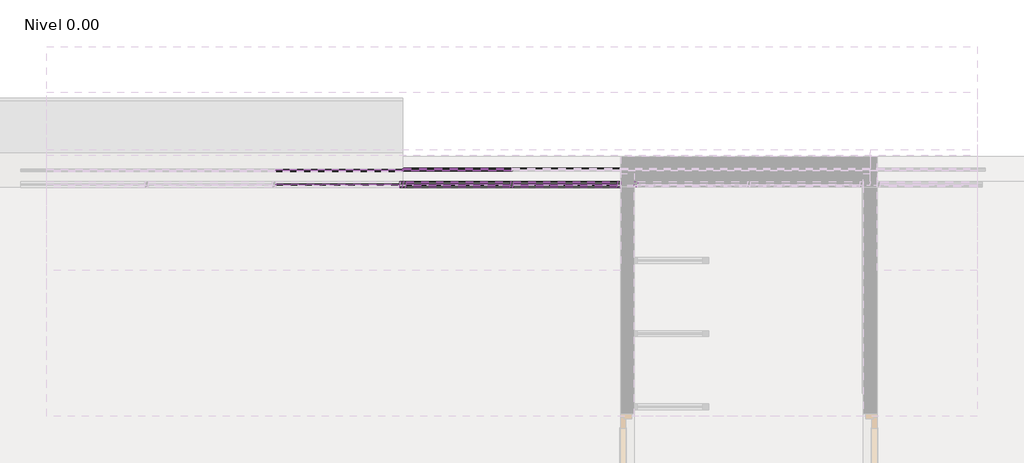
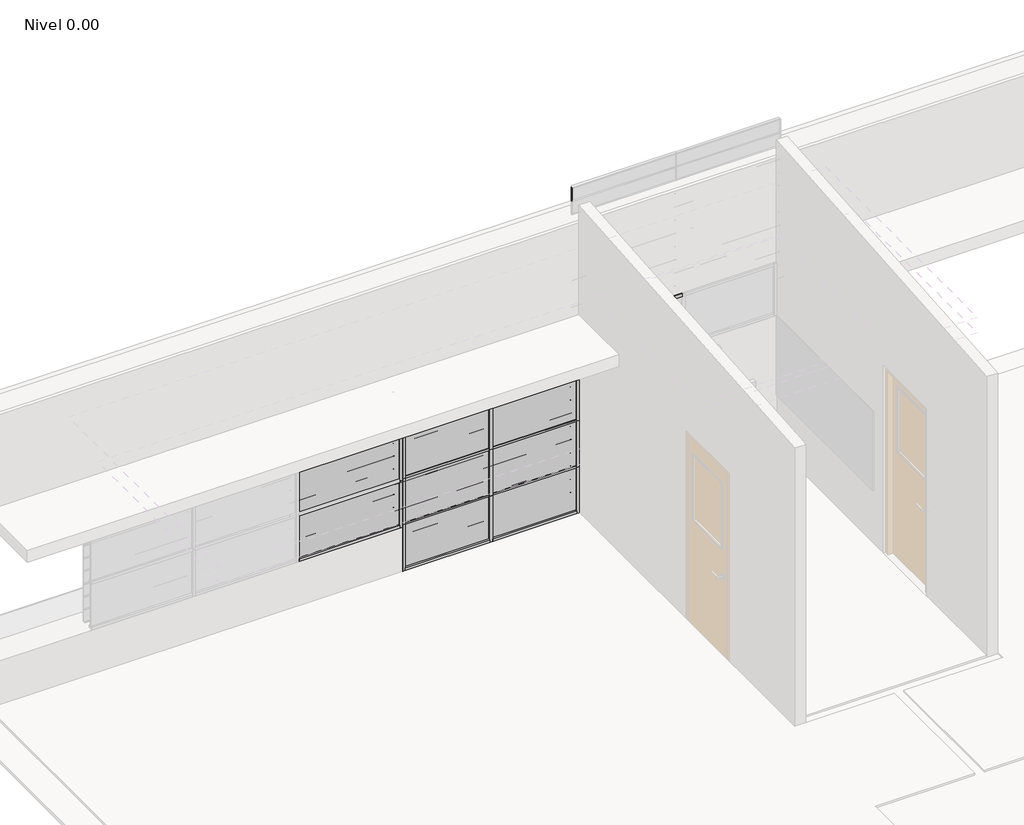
# One storey, part 14 of 27: 97 members, 36 plates.
"""IFC4 building model written with IfcOpenShell, lengths in millimetres."""

from ifc_helpers import new_model, si_unit, origin, place, context, project, spatial, transform, mapped, element, save
from components import circular_mullion_e1cfff8a, l_corner_mullion_bdbcb013, l_corner_mullion_bb2ea94d, l_corner_mullion_de296168, rectangular_mullion_fd73bc33, rectangular_mullion_62a8ddbd, rectangular_mullion_2cbd8fee, rectangular_mullion_4ef2b083, rectangular_mullion_f7ba8490, rectangular_mullion_f4ea7fa0, rectangular_mullion_c518a510, rectangular_mullion_b22e6fb3, rectangular_mullion_4732226b, rectangular_mullion_bccfeea3, rectangular_mullion_9fa35bb9, system_panel_6bc11d80, system_panel_4f7478dd, system_panel_7fb71679, system_panel_d60c91ae, system_panel_glazed_9e3282f8, system_panel_glazed_76269dd0, system_panel_glazed_86de827a, system_panel_glazed_6ff0c913

model = new_model("IFC4")

# Units and contexts
model_context = context("Model", 3, world=origin())
ifc_project = project(units=[si_unit("LENGTHUNIT", "METRE", prefix="MILLI")], contexts=[model_context])

# Site, building, storey
site = spatial("IfcSite", under=ifc_project)
building = spatial("IfcBuilding", under=site)
storey = spatial("IfcBuildingStorey", under=building, Name="Nivel 0.00", Elevation=0.0)

# Members
placement = place(None, origin())
circular_mullion_shape = circular_mullion_e1cfff8a(model_context)
element("IfcMember", 1, ObjectType="Circular Mullion : ARQ_HERR_16mm", at=placement, inside=storey, context=model_context, shape_type="MappedRepresentation", body=[
    mapped(circular_mullion_shape, transform((-10408.1946709, 6959.43912, 150.0), x_axis=(0.0, 0.0, 1.0), y_axis=(0.0, -1.0, 0.0), z_axis=(1.0, 0.0, 0.0))),
])
element("IfcMember", 2, ObjectType="Circular Mullion : ARQ_HERR_16mm", at=placement, inside=storey, context=model_context, shape_type="MappedRepresentation", body=[
    mapped(circular_mullion_shape, transform((-10408.1946709, 6959.43912, 300.0), x_axis=(0.0, 0.0, 1.0), y_axis=(0.0, -1.0, 0.0), z_axis=(1.0, 0.0, 0.0))),
])
element("IfcMember", 3, ObjectType="Circular Mullion : ARQ_HERR_16mm", at=placement, inside=storey, context=model_context, shape_type="MappedRepresentation", body=[
    mapped(circular_mullion_shape, transform((-10408.1946709, 6959.43912, 450.0), x_axis=(0.0, 0.0, 1.0), y_axis=(0.0, -1.0, 0.0), z_axis=(1.0, 0.0, 0.0))),
])
element("IfcMember", 4, ObjectType="Circular Mullion : ARQ_HERR_16mm", at=placement, inside=storey, context=model_context, shape_type="MappedRepresentation", body=[
    mapped(circular_mullion_shape, transform((-10408.1946709, 6959.43912, 600.0), x_axis=(0.0, 0.0, 1.0), y_axis=(0.0, -1.0, 0.0), z_axis=(1.0, 0.0, 0.0))),
])
element("IfcMember", 5, ObjectType="Circular Mullion : ARQ_HERR_16mm", at=placement, inside=storey, context=model_context, shape_type="MappedRepresentation", body=[
    mapped(circular_mullion_shape, transform((-10408.1946709, 6959.43912, 750.0), x_axis=(0.0, 0.0, 1.0), y_axis=(0.0, -1.0, 0.0), z_axis=(1.0, 0.0, 0.0))),
])
element("IfcMember", 6, ObjectType="Circular Mullion : ARQ_HERR_16mm", at=placement, inside=storey, context=model_context, shape_type="MappedRepresentation", body=[
    mapped(circular_mullion_shape, transform((-10408.1946709, 6959.43912, 900.0), x_axis=(0.0, 0.0, 1.0), y_axis=(0.0, -1.0, 0.0), z_axis=(1.0, 0.0, 0.0))),
])
element("IfcMember", 7, ObjectType="Circular Mullion : ARQ_HERR_16mm", at=placement, inside=storey, context=model_context, shape_type="MappedRepresentation", body=[
    mapped(circular_mullion_shape, transform((-10408.1946709, 6959.43912, 1050.0), x_axis=(0.0, 0.0, 1.0), y_axis=(0.0, -1.0, 0.0), z_axis=(1.0, 0.0, 0.0))),
])
element("IfcMember", 8, ObjectType="Circular Mullion : ARQ_HERR_16mm", at=placement, inside=storey, context=model_context, shape_type="MappedRepresentation", body=[
    mapped(circular_mullion_shape, transform((-10408.1946709, 6959.43912, 1200.0), x_axis=(0.0, 0.0, 1.0), y_axis=(0.0, -1.0, 0.0), z_axis=(1.0, 0.0, 0.0))),
])
element("IfcMember", 9, ObjectType="Circular Mullion : ARQ_HERR_16mm", at=placement, inside=storey, context=model_context, shape_type="MappedRepresentation", body=[
    mapped(circular_mullion_shape, transform((-10408.1946709, 6959.43912, 1350.0), x_axis=(0.0, 0.0, 1.0), y_axis=(0.0, -1.0, 0.0), z_axis=(1.0, 0.0, 0.0))),
])
element("IfcMember", 10, ObjectType="Circular Mullion : ARQ_HERR_16mm", at=placement, inside=storey, context=model_context, shape_type="MappedRepresentation", body=[
    mapped(circular_mullion_shape, transform((-10408.1946709, 6959.43912, 1500.0), x_axis=(0.0, 0.0, 1.0), y_axis=(0.0, -1.0, 0.0), z_axis=(1.0, 0.0, 0.0))),
])
element("IfcMember", 11, ObjectType="Circular Mullion : ARQ_HERR_16mm", at=placement, inside=storey, context=model_context, shape_type="MappedRepresentation", body=[
    mapped(circular_mullion_shape, transform((-10408.1946709, 6959.43912, 1650.0), x_axis=(0.0, 0.0, 1.0), y_axis=(0.0, -1.0, 0.0), z_axis=(1.0, 0.0, 0.0))),
])
element("IfcMember", 12, ObjectType="Circular Mullion : ARQ_HERR_16mm", at=placement, inside=storey, context=model_context, shape_type="MappedRepresentation", body=[
    mapped(circular_mullion_shape, transform((-10408.1946709, 6959.43912, 1800.0), x_axis=(0.0, 0.0, 1.0), y_axis=(0.0, -1.0, 0.0), z_axis=(1.0, 0.0, 0.0))),
])
element("IfcMember", 13, ObjectType="Circular Mullion : ARQ_HERR_16mm", at=placement, inside=storey, context=model_context, shape_type="MappedRepresentation", body=[
    mapped(circular_mullion_shape, transform((-10408.1946709, 6959.43912, 1950.0), x_axis=(0.0, 0.0, 1.0), y_axis=(0.0, -1.0, 0.0), z_axis=(1.0, 0.0, 0.0))),
])
l_corner_mullion_shape = l_corner_mullion_bdbcb013(model_context)
element("IfcMember", 14, ObjectType="L Corner Mullion : ARQ_HERR_15X6mm", at=placement, inside=storey, context=model_context, shape_type="MappedRepresentation", body=[
    mapped(l_corner_mullion_shape, transform((-9449.2388409, 6959.43912, 1500.0), x_axis=(0.0, 0.0, -1.0), y_axis=(0.0, -1.0, 0.0), z_axis=(-1.0, 0.0, 0.0))),
])
l_corner_mullion_2_shape = l_corner_mullion_bb2ea94d(model_context)
element("IfcMember", 15, ObjectType="L Corner Mullion : ARQ_HERR_15X6mm", at=placement, inside=storey, context=model_context, shape_type="MappedRepresentation", body=[
    mapped(l_corner_mullion_2_shape, transform((-11361.150501, 6959.43912, 500.0), x_axis=(0.0, 0.0, -1.0), y_axis=(0.0, 1.0, 0.0), z_axis=(1.0, 0.0, 0.0))),
])
l_corner_mullion_3_shape = l_corner_mullion_de296168(model_context)
element("IfcMember", 16, ObjectType="L Corner Mullion : ARQ_HERR_15X6mm", at=placement, inside=storey, context=model_context, shape_type="MappedRepresentation", body=[
    mapped(l_corner_mullion_3_shape, transform((-10408.1946709, 6959.43912, 2100.0), x_axis=(0.0, 0.0, 1.0), y_axis=(0.0, -1.0, 0.0), z_axis=(1.0, 0.0, 0.0))),
])
element("IfcMember", 17, ObjectType="L Corner Mullion : ARQ_HERR_15X6mm", at=placement, inside=storey, context=model_context, shape_type="MappedRepresentation", body=[
    mapped(l_corner_mullion_3_shape, transform((-11349.150501, 6959.43912, 0.0), x_axis=(0.0, 0.0, -1.0), y_axis=(0.0, -1.0, 0.0), z_axis=(-1.0, 0.0, 0.0))),
])
element("IfcMember", 18, ObjectType="L Corner Mullion : ARQ_HERR_15X6mm", at=placement, inside=storey, context=model_context, shape_type="MappedRepresentation", body=[
    mapped(l_corner_mullion_3_shape, transform((-10402.1946709, 6959.43912, 0.0), x_axis=(0.0, 0.0, -1.0), y_axis=(0.0, -1.0, 0.0), z_axis=(-1.0, 0.0, 0.0))),
])
rectangular_mullion_shape = rectangular_mullion_fd73bc33(model_context)
element("IfcMember", 19, ObjectType="Rectangular Mullion : ARQ_TV_MULL_50x30mm", at=placement, inside=storey, context=model_context, shape_type="MappedRepresentation", body=[
    mapped(rectangular_mullion_shape, transform((-10405.1946709, 6833.6242925, 0.0), x_axis=(1.0, 0.0, 0.0), y_axis=(0.0, -1.0, 0.0), z_axis=(0.0, 0.0, -1.0))),
])
element("IfcMember", 20, ObjectType="Rectangular Mullion : ARQ_TV_MULL_50x30mm", at=placement, inside=storey, context=model_context, shape_type="MappedRepresentation", body=[
    mapped(rectangular_mullion_shape, transform((-10405.1946709, 6833.6242925, 525.0), x_axis=(1.0, 0.0, 0.0), y_axis=(0.0, -1.0, 0.0), z_axis=(0.0, 0.0, -1.0))),
])
element("IfcMember", 21, ObjectType="Rectangular Mullion : ARQ_TV_MULL_50x30mm", at=placement, inside=storey, context=model_context, shape_type="MappedRepresentation", body=[
    mapped(rectangular_mullion_shape, transform((-10405.1946709, 6833.6242925, 1050.0), x_axis=(1.0, 0.0, 0.0), y_axis=(0.0, -1.0, 0.0), z_axis=(0.0, 0.0, -1.0))),
])
element("IfcMember", 22, ObjectType="Rectangular Mullion : ARQ_TV_MULL_50x30mm", at=placement, inside=storey, context=model_context, shape_type="MappedRepresentation", body=[
    mapped(rectangular_mullion_shape, transform((-10405.1946709, 6833.6242925, 1575.0), x_axis=(1.0, 0.0, 0.0), y_axis=(0.0, -1.0, 0.0), z_axis=(0.0, 0.0, -1.0))),
])
rectangular_mullion_2_shape = rectangular_mullion_62a8ddbd(model_context)
element("IfcMember", 23, ObjectType="Rectangular Mullion : ARQ_TV_MULL_50x30mm", at=placement, inside=storey, context=model_context, shape_type="MappedRepresentation", body=[
    mapped(rectangular_mullion_2_shape, transform((-9455.2388409, 6833.6242925, 0.0), x_axis=(1.0, 0.0, 0.0), y_axis=(0.0, -1.0, 0.0), z_axis=(0.0, 0.0, -1.0))),
])
element("IfcMember", 24, ObjectType="Rectangular Mullion : ARQ_TV_MULL_50x30mm", at=placement, inside=storey, context=model_context, shape_type="MappedRepresentation", body=[
    mapped(rectangular_mullion_2_shape, transform((-9455.2388409, 6833.6242925, 525.0), x_axis=(1.0, 0.0, 0.0), y_axis=(0.0, -1.0, 0.0), z_axis=(0.0, 0.0, -1.0))),
])
element("IfcMember", 25, ObjectType="Rectangular Mullion : ARQ_TV_MULL_50x30mm", at=placement, inside=storey, context=model_context, shape_type="MappedRepresentation", body=[
    mapped(rectangular_mullion_2_shape, transform((-9455.2388409, 6833.6242925, 1050.0), x_axis=(1.0, 0.0, 0.0), y_axis=(0.0, -1.0, 0.0), z_axis=(0.0, 0.0, -1.0))),
])
element("IfcMember", 26, ObjectType="Rectangular Mullion : ARQ_TV_MULL_50x30mm", at=placement, inside=storey, context=model_context, shape_type="MappedRepresentation", body=[
    mapped(rectangular_mullion_2_shape, transform((-9455.2388409, 6833.6242925, 1575.0), x_axis=(1.0, 0.0, 0.0), y_axis=(0.0, -1.0, 0.0), z_axis=(0.0, 0.0, -1.0))),
])
element("IfcMember", 27, ObjectType="Rectangular Mullion : ARQ_TV_MULL_50x30mm", at=placement, inside=storey, context=model_context, shape_type="MappedRepresentation", body=[
    mapped(rectangular_mullion_2_shape, transform((-11355.150501, 6833.6242925, 2100.0), x_axis=(-1.0, 0.0, 0.0), y_axis=(0.0, -1.0, 0.0), z_axis=(0.0, 0.0, 1.0))),
])
element("IfcMember", 28, ObjectType="Rectangular Mullion : ARQ_TV_MULL_50x30mm", at=placement, inside=storey, context=model_context, shape_type="MappedRepresentation", body=[
    mapped(rectangular_mullion_2_shape, transform((-11355.150501, 6833.6242925, 525.0), x_axis=(-1.0, 0.0, 0.0), y_axis=(0.0, -1.0, 0.0), z_axis=(0.0, 0.0, 1.0))),
])
element("IfcMember", 29, ObjectType="Rectangular Mullion : ARQ_TV_MULL_50x30mm", at=placement, inside=storey, context=model_context, shape_type="MappedRepresentation", body=[
    mapped(rectangular_mullion_2_shape, transform((-11355.150501, 6833.6242925, 1050.0), x_axis=(-1.0, 0.0, 0.0), y_axis=(0.0, -1.0, 0.0), z_axis=(0.0, 0.0, 1.0))),
])
element("IfcMember", 30, ObjectType="Rectangular Mullion : ARQ_TV_MULL_50x30mm", at=placement, inside=storey, context=model_context, shape_type="MappedRepresentation", body=[
    mapped(rectangular_mullion_2_shape, transform((-11355.150501, 6833.6242925, 1575.0), x_axis=(-1.0, 0.0, 0.0), y_axis=(0.0, -1.0, 0.0), z_axis=(0.0, 0.0, 1.0))),
])
rectangular_mullion_3_shape = rectangular_mullion_2cbd8fee(model_context)
element("IfcMember", 31, ObjectType="Rectangular Mullion : ARQ_TV_MULL_50x30mm", at=placement, inside=storey, context=model_context, shape_type="MappedRepresentation", body=[
    mapped(rectangular_mullion_3_shape, transform((-9485.2388409, 6833.6242925, 2100.0), x_axis=(0.0, 0.0, 1.0), y_axis=(0.0, -1.0, 0.0), z_axis=(1.0, 0.0, 0.0))),
])
element("IfcMember", 32, ObjectType="Rectangular Mullion : ARQ_TV_MULL_50x30mm", at=placement, inside=storey, context=model_context, shape_type="MappedRepresentation", body=[
    mapped(rectangular_mullion_3_shape, transform((-10420.1946709, 6833.6242925, 2100.0), x_axis=(0.0, 0.0, 1.0), y_axis=(0.0, -1.0, 0.0), z_axis=(1.0, 0.0, 0.0))),
])
element("IfcMember", 33, ObjectType="Rectangular Mullion : ARQ_TV_MULL_50x30mm", at=placement, inside=storey, context=model_context, shape_type="MappedRepresentation", body=[
    mapped(rectangular_mullion_3_shape, transform((-11325.150501, 6833.6242925, 0.0), x_axis=(0.0, 0.0, -1.0), y_axis=(0.0, -1.0, 0.0), z_axis=(-1.0, 0.0, 0.0))),
])
element("IfcMember", 34, ObjectType="Rectangular Mullion : ARQ_TV_MULL_50x30mm", at=placement, inside=storey, context=model_context, shape_type="MappedRepresentation", body=[
    mapped(rectangular_mullion_3_shape, transform((-10390.1946709, 6833.6242925, 0.0), x_axis=(0.0, 0.0, -1.0), y_axis=(0.0, -1.0, 0.0), z_axis=(-1.0, 0.0, 0.0))),
])
rectangular_mullion_4_shape = rectangular_mullion_4ef2b083(model_context)
element("IfcMember", 35, ObjectType="Rectangular Mullion : ARQ_TV_MULL_30x20mm", at=placement, inside=storey, context=model_context, shape_type="MappedRepresentation", body=[
    mapped(rectangular_mullion_4_shape, transform((-10420.1946709, 6833.6242925, 525.0), x_axis=(0.0, 0.0, 1.0), y_axis=(0.0, -1.0, 0.0), z_axis=(1.0, 0.0, 0.0))),
])
element("IfcMember", 36, ObjectType="Rectangular Mullion : ARQ_TV_MULL_30x20mm", at=placement, inside=storey, context=model_context, shape_type="MappedRepresentation", body=[
    mapped(rectangular_mullion_4_shape, transform((-9485.2388409, 6833.6242925, 525.0), x_axis=(0.0, 0.0, 1.0), y_axis=(0.0, -1.0, 0.0), z_axis=(1.0, 0.0, 0.0))),
])
element("IfcMember", 37, ObjectType="Rectangular Mullion : ARQ_TV_MULL_30x20mm", at=placement, inside=storey, context=model_context, shape_type="MappedRepresentation", body=[
    mapped(rectangular_mullion_4_shape, transform((-10420.1946709, 6833.6242925, 1050.0), x_axis=(0.0, 0.0, 1.0), y_axis=(0.0, -1.0, 0.0), z_axis=(1.0, 0.0, 0.0))),
])
element("IfcMember", 38, ObjectType="Rectangular Mullion : ARQ_TV_MULL_30x20mm", at=placement, inside=storey, context=model_context, shape_type="MappedRepresentation", body=[
    mapped(rectangular_mullion_4_shape, transform((-9485.2388409, 6833.6242925, 1050.0), x_axis=(0.0, 0.0, 1.0), y_axis=(0.0, -1.0, 0.0), z_axis=(1.0, 0.0, 0.0))),
])
element("IfcMember", 39, ObjectType="Rectangular Mullion : ARQ_TV_MULL_30x20mm", at=placement, inside=storey, context=model_context, shape_type="MappedRepresentation", body=[
    mapped(rectangular_mullion_4_shape, transform((-10420.1946709, 6833.6242925, 1575.0), x_axis=(0.0, 0.0, 1.0), y_axis=(0.0, -1.0, 0.0), z_axis=(1.0, 0.0, 0.0))),
])
element("IfcMember", 40, ObjectType="Rectangular Mullion : ARQ_TV_MULL_30x20mm", at=placement, inside=storey, context=model_context, shape_type="MappedRepresentation", body=[
    mapped(rectangular_mullion_4_shape, transform((-9485.2388409, 6833.6242925, 1575.0), x_axis=(0.0, 0.0, 1.0), y_axis=(0.0, -1.0, 0.0), z_axis=(1.0, 0.0, 0.0))),
])
rectangular_mullion_5_shape = rectangular_mullion_f7ba8490(model_context)
element("IfcMember", 41, ObjectType="Rectangular Mullion : ARQ_TV_MULL_50x30mm", at=placement, inside=storey, context=model_context, shape_type="MappedRepresentation", body=[
    mapped(rectangular_mullion_5_shape, transform((-11355.150501, 6833.6242925, 2100.0), x_axis=(1.0, 0.0, 0.0), y_axis=(0.0, 1.0, 0.0), z_axis=(0.0, 0.0, 1.0))),
])
element("IfcMember", 42, ObjectType="Rectangular Mullion : ARQ_TV_MULL_50x30mm", at=placement, inside=storey, context=model_context, shape_type="MappedRepresentation", body=[
    mapped(rectangular_mullion_5_shape, transform((-11355.150501, 6833.6242925, 1033.3333333), x_axis=(1.0, 0.0, 0.0), y_axis=(0.0, 1.0, 0.0), z_axis=(0.0, 0.0, 1.0))),
])
element("IfcMember", 43, ObjectType="Rectangular Mullion : ARQ_TV_MULL_50x30mm", at=placement, inside=storey, context=model_context, shape_type="MappedRepresentation", body=[
    mapped(rectangular_mullion_5_shape, transform((-11355.150501, 6833.6242925, 1566.6666667), x_axis=(1.0, 0.0, 0.0), y_axis=(0.0, 1.0, 0.0), z_axis=(0.0, 0.0, 1.0))),
])
rectangular_mullion_6_shape = rectangular_mullion_f4ea7fa0(model_context)
element("IfcMember", 44, ObjectType="Rectangular Mullion : ARQ_TV_MULL_50x30mm", at=placement, inside=storey, context=model_context, shape_type="MappedRepresentation", body=[
    mapped(rectangular_mullion_6_shape, transform((-9335.5691805, 6834.439065, 1500.0), x_axis=(-1.0, 0.0, 0.0), y_axis=(0.0, 1.0, 0.0), z_axis=(0.0, 0.0, -1.0))),
])
rectangular_mullion_7_shape = rectangular_mullion_c518a510(model_context)
element("IfcMember", 45, ObjectType="Rectangular Mullion : ARQ_TV_MULL_50x30mm", at=placement, inside=storey, context=model_context, shape_type="MappedRepresentation", body=[
    mapped(rectangular_mullion_7_shape, transform((-11385.150501, 6833.6242925, 500.0), x_axis=(0.0, 0.0, -1.0), y_axis=(0.0, 1.0, 0.0), z_axis=(1.0, 0.0, 0.0))),
])
rectangular_mullion_8_shape = rectangular_mullion_b22e6fb3(model_context)
element("IfcMember", 46, ObjectType="Rectangular Mullion : ARQ_TV_MULL_50x30mm", at=placement, inside=storey, context=model_context, shape_type="MappedRepresentation", body=[
    mapped(rectangular_mullion_8_shape, transform((-9305.5691805, 6834.439065, 2100.0), x_axis=(0.0, 0.0, 1.0), y_axis=(0.0, 1.0, 0.0), z_axis=(-1.0, 0.0, 0.0))),
])
rectangular_mullion_9_shape = rectangular_mullion_4732226b(model_context)
element("IfcMember", 47, ObjectType="Rectangular Mullion : ARQ_HERR_15X6mm", at=placement, inside=storey, context=model_context, shape_type="MappedRepresentation", body=[
    mapped(rectangular_mullion_9_shape, transform((-10405.1946709, 6959.43912, 0.0), x_axis=(1.0, 0.0, 0.0), y_axis=(0.0, -1.0, 0.0), z_axis=(0.0, 0.0, -1.0))),
])
element("IfcMember", 48, ObjectType="Rectangular Mullion : ARQ_HERR_15X6mm", at=placement, inside=storey, context=model_context, shape_type="MappedRepresentation", body=[
    mapped(rectangular_mullion_9_shape, transform((-10405.1946709, 6959.43912, 150.0), x_axis=(1.0, 0.0, 0.0), y_axis=(0.0, -1.0, 0.0), z_axis=(0.0, 0.0, -1.0))),
])
element("IfcMember", 49, ObjectType="Rectangular Mullion : ARQ_HERR_15X6mm", at=placement, inside=storey, context=model_context, shape_type="MappedRepresentation", body=[
    mapped(rectangular_mullion_9_shape, transform((-10405.1946709, 6959.43912, 300.0), x_axis=(1.0, 0.0, 0.0), y_axis=(0.0, -1.0, 0.0), z_axis=(0.0, 0.0, -1.0))),
])
element("IfcMember", 50, ObjectType="Rectangular Mullion : ARQ_HERR_15X6mm", at=placement, inside=storey, context=model_context, shape_type="MappedRepresentation", body=[
    mapped(rectangular_mullion_9_shape, transform((-10405.1946709, 6959.43912, 450.0), x_axis=(1.0, 0.0, 0.0), y_axis=(0.0, -1.0, 0.0), z_axis=(0.0, 0.0, -1.0))),
])
element("IfcMember", 51, ObjectType="Rectangular Mullion : ARQ_HERR_15X6mm", at=placement, inside=storey, context=model_context, shape_type="MappedRepresentation", body=[
    mapped(rectangular_mullion_9_shape, transform((-10405.1946709, 6959.43912, 600.0), x_axis=(1.0, 0.0, 0.0), y_axis=(0.0, -1.0, 0.0), z_axis=(0.0, 0.0, -1.0))),
])
element("IfcMember", 52, ObjectType="Rectangular Mullion : ARQ_HERR_15X6mm", at=placement, inside=storey, context=model_context, shape_type="MappedRepresentation", body=[
    mapped(rectangular_mullion_9_shape, transform((-10405.1946709, 6959.43912, 750.0), x_axis=(1.0, 0.0, 0.0), y_axis=(0.0, -1.0, 0.0), z_axis=(0.0, 0.0, -1.0))),
])
element("IfcMember", 53, ObjectType="Rectangular Mullion : ARQ_HERR_15X6mm", at=placement, inside=storey, context=model_context, shape_type="MappedRepresentation", body=[
    mapped(rectangular_mullion_9_shape, transform((-10405.1946709, 6959.43912, 900.0), x_axis=(1.0, 0.0, 0.0), y_axis=(0.0, -1.0, 0.0), z_axis=(0.0, 0.0, -1.0))),
])
element("IfcMember", 54, ObjectType="Rectangular Mullion : ARQ_HERR_15X6mm", at=placement, inside=storey, context=model_context, shape_type="MappedRepresentation", body=[
    mapped(rectangular_mullion_9_shape, transform((-10405.1946709, 6959.43912, 1050.0), x_axis=(1.0, 0.0, 0.0), y_axis=(0.0, -1.0, 0.0), z_axis=(0.0, 0.0, -1.0))),
])
element("IfcMember", 55, ObjectType="Rectangular Mullion : ARQ_HERR_15X6mm", at=placement, inside=storey, context=model_context, shape_type="MappedRepresentation", body=[
    mapped(rectangular_mullion_9_shape, transform((-10405.1946709, 6959.43912, 1200.0), x_axis=(1.0, 0.0, 0.0), y_axis=(0.0, -1.0, 0.0), z_axis=(0.0, 0.0, -1.0))),
])
element("IfcMember", 56, ObjectType="Rectangular Mullion : ARQ_HERR_15X6mm", at=placement, inside=storey, context=model_context, shape_type="MappedRepresentation", body=[
    mapped(rectangular_mullion_9_shape, transform((-10405.1946709, 6959.43912, 1350.0), x_axis=(1.0, 0.0, 0.0), y_axis=(0.0, -1.0, 0.0), z_axis=(0.0, 0.0, -1.0))),
])
element("IfcMember", 57, ObjectType="Rectangular Mullion : ARQ_HERR_15X6mm", at=placement, inside=storey, context=model_context, shape_type="MappedRepresentation", body=[
    mapped(rectangular_mullion_9_shape, transform((-10405.1946709, 6959.43912, 1500.0), x_axis=(1.0, 0.0, 0.0), y_axis=(0.0, -1.0, 0.0), z_axis=(0.0, 0.0, -1.0))),
])
element("IfcMember", 58, ObjectType="Rectangular Mullion : ARQ_HERR_15X6mm", at=placement, inside=storey, context=model_context, shape_type="MappedRepresentation", body=[
    mapped(rectangular_mullion_9_shape, transform((-10405.1946709, 6959.43912, 1650.0), x_axis=(1.0, 0.0, 0.0), y_axis=(0.0, -1.0, 0.0), z_axis=(0.0, 0.0, -1.0))),
])
element("IfcMember", 59, ObjectType="Rectangular Mullion : ARQ_HERR_15X6mm", at=placement, inside=storey, context=model_context, shape_type="MappedRepresentation", body=[
    mapped(rectangular_mullion_9_shape, transform((-10405.1946709, 6959.43912, 1800.0), x_axis=(1.0, 0.0, 0.0), y_axis=(0.0, -1.0, 0.0), z_axis=(0.0, 0.0, -1.0))),
])
rectangular_mullion_10_shape = rectangular_mullion_bccfeea3(model_context)
element("IfcMember", 60, ObjectType="Rectangular Mullion : ARQ_HERR_15X6mm", at=placement, inside=storey, context=model_context, shape_type="MappedRepresentation", body=[
    mapped(rectangular_mullion_10_shape, transform((-9455.2388409, 6959.43912, 1650.0), x_axis=(-1.0, 0.0, 0.0), y_axis=(0.0, -1.0, 0.0), z_axis=(0.0, 0.0, 1.0))),
])
element("IfcMember", 61, ObjectType="Rectangular Mullion : ARQ_HERR_15X6mm", at=placement, inside=storey, context=model_context, shape_type="MappedRepresentation", body=[
    mapped(rectangular_mullion_10_shape, transform((-11355.150501, 6959.43912, 150.0), x_axis=(-1.0, 0.0, 0.0), y_axis=(0.0, -1.0, 0.0), z_axis=(0.0, 0.0, 1.0))),
])
element("IfcMember", 62, ObjectType="Rectangular Mullion : ARQ_HERR_15X6mm", at=placement, inside=storey, context=model_context, shape_type="MappedRepresentation", body=[
    mapped(rectangular_mullion_10_shape, transform((-9455.2388409, 6959.43912, 1800.0), x_axis=(-1.0, 0.0, 0.0), y_axis=(0.0, -1.0, 0.0), z_axis=(0.0, 0.0, 1.0))),
])
element("IfcMember", 63, ObjectType="Rectangular Mullion : ARQ_HERR_15X6mm", at=placement, inside=storey, context=model_context, shape_type="MappedRepresentation", body=[
    mapped(rectangular_mullion_10_shape, transform((-9455.2388409, 6959.43912, 1950.0), x_axis=(-1.0, 0.0, 0.0), y_axis=(0.0, -1.0, 0.0), z_axis=(0.0, 0.0, 1.0))),
])
element("IfcMember", 64, ObjectType="Rectangular Mullion : ARQ_HERR_15X6mm", at=placement, inside=storey, context=model_context, shape_type="MappedRepresentation", body=[
    mapped(rectangular_mullion_10_shape, transform((-9455.2388409, 6959.43912, 2100.0), x_axis=(-1.0, 0.0, 0.0), y_axis=(0.0, -1.0, 0.0), z_axis=(0.0, 0.0, 1.0))),
])
element("IfcMember", 65, ObjectType="Rectangular Mullion : ARQ_HERR_15X6mm", at=placement, inside=storey, context=model_context, shape_type="MappedRepresentation", body=[
    mapped(rectangular_mullion_10_shape, transform((-9455.2388409, 6959.43912, 2250.0), x_axis=(-1.0, 0.0, 0.0), y_axis=(0.0, -1.0, 0.0), z_axis=(0.0, 0.0, 1.0))),
])
element("IfcMember", 66, ObjectType="Rectangular Mullion : ARQ_HERR_15X6mm", at=placement, inside=storey, context=model_context, shape_type="MappedRepresentation", body=[
    mapped(rectangular_mullion_10_shape, transform((-9455.2388409, 6959.43912, 2400.0), x_axis=(-1.0, 0.0, 0.0), y_axis=(0.0, -1.0, 0.0), z_axis=(0.0, 0.0, 1.0))),
])
element("IfcMember", 67, ObjectType="Rectangular Mullion : ARQ_HERR_15X6mm", at=placement, inside=storey, context=model_context, shape_type="MappedRepresentation", body=[
    mapped(rectangular_mullion_10_shape, transform((-9455.2388409, 6959.43912, 2550.0), x_axis=(-1.0, 0.0, 0.0), y_axis=(0.0, -1.0, 0.0), z_axis=(0.0, 0.0, 1.0))),
])
element("IfcMember", 68, ObjectType="Rectangular Mullion : ARQ_HERR_15X6mm", at=placement, inside=storey, context=model_context, shape_type="MappedRepresentation", body=[
    mapped(rectangular_mullion_10_shape, transform((-9455.2388409, 6959.43912, 2700.0), x_axis=(-1.0, 0.0, 0.0), y_axis=(0.0, -1.0, 0.0), z_axis=(0.0, 0.0, 1.0))),
])
element("IfcMember", 69, ObjectType="Rectangular Mullion : ARQ_HERR_15X6mm", at=placement, inside=storey, context=model_context, shape_type="MappedRepresentation", body=[
    mapped(rectangular_mullion_10_shape, transform((-9455.2388409, 6959.43912, 2850.0), x_axis=(-1.0, 0.0, 0.0), y_axis=(0.0, -1.0, 0.0), z_axis=(0.0, 0.0, 1.0))),
])
element("IfcMember", 70, ObjectType="Rectangular Mullion : ARQ_HERR_15X6mm", at=placement, inside=storey, context=model_context, shape_type="MappedRepresentation", body=[
    mapped(rectangular_mullion_10_shape, transform((-9455.2388409, 6959.43912, 3000.0), x_axis=(-1.0, 0.0, 0.0), y_axis=(0.0, -1.0, 0.0), z_axis=(0.0, 0.0, 1.0))),
])
element("IfcMember", 71, ObjectType="Rectangular Mullion : ARQ_HERR_15X6mm", at=placement, inside=storey, context=model_context, shape_type="MappedRepresentation", body=[
    mapped(rectangular_mullion_10_shape, transform((-9455.2388409, 6959.43912, 3150.0), x_axis=(-1.0, 0.0, 0.0), y_axis=(0.0, -1.0, 0.0), z_axis=(0.0, 0.0, 1.0))),
])
element("IfcMember", 72, ObjectType="Rectangular Mullion : ARQ_HERR_15X6mm", at=placement, inside=storey, context=model_context, shape_type="MappedRepresentation", body=[
    mapped(rectangular_mullion_10_shape, transform((-11355.150501, 6959.43912, 300.0), x_axis=(-1.0, 0.0, 0.0), y_axis=(0.0, -1.0, 0.0), z_axis=(0.0, 0.0, 1.0))),
])
element("IfcMember", 73, ObjectType="Rectangular Mullion : ARQ_HERR_15X6mm", at=placement, inside=storey, context=model_context, shape_type="MappedRepresentation", body=[
    mapped(rectangular_mullion_10_shape, transform((-11355.150501, 6959.43912, 450.0), x_axis=(-1.0, 0.0, 0.0), y_axis=(0.0, -1.0, 0.0), z_axis=(0.0, 0.0, 1.0))),
])
element("IfcMember", 74, ObjectType="Rectangular Mullion : ARQ_HERR_15X6mm", at=placement, inside=storey, context=model_context, shape_type="MappedRepresentation", body=[
    mapped(rectangular_mullion_10_shape, transform((-11355.150501, 6959.43912, 600.0), x_axis=(-1.0, 0.0, 0.0), y_axis=(0.0, -1.0, 0.0), z_axis=(0.0, 0.0, 1.0))),
])
element("IfcMember", 75, ObjectType="Rectangular Mullion : ARQ_HERR_15X6mm", at=placement, inside=storey, context=model_context, shape_type="MappedRepresentation", body=[
    mapped(rectangular_mullion_10_shape, transform((-11355.150501, 6959.43912, 750.0), x_axis=(-1.0, 0.0, 0.0), y_axis=(0.0, -1.0, 0.0), z_axis=(0.0, 0.0, 1.0))),
])
element("IfcMember", 76, ObjectType="Rectangular Mullion : ARQ_HERR_15X6mm", at=placement, inside=storey, context=model_context, shape_type="MappedRepresentation", body=[
    mapped(rectangular_mullion_10_shape, transform((-11355.150501, 6959.43912, 900.0), x_axis=(-1.0, 0.0, 0.0), y_axis=(0.0, -1.0, 0.0), z_axis=(0.0, 0.0, 1.0))),
])
element("IfcMember", 77, ObjectType="Rectangular Mullion : ARQ_HERR_15X6mm", at=placement, inside=storey, context=model_context, shape_type="MappedRepresentation", body=[
    mapped(rectangular_mullion_10_shape, transform((-11355.150501, 6959.43912, 1050.0), x_axis=(-1.0, 0.0, 0.0), y_axis=(0.0, -1.0, 0.0), z_axis=(0.0, 0.0, 1.0))),
])
element("IfcMember", 78, ObjectType="Rectangular Mullion : ARQ_HERR_15X6mm", at=placement, inside=storey, context=model_context, shape_type="MappedRepresentation", body=[
    mapped(rectangular_mullion_10_shape, transform((-11355.150501, 6959.43912, 1200.0), x_axis=(-1.0, 0.0, 0.0), y_axis=(0.0, -1.0, 0.0), z_axis=(0.0, 0.0, 1.0))),
])
element("IfcMember", 79, ObjectType="Rectangular Mullion : ARQ_HERR_15X6mm", at=placement, inside=storey, context=model_context, shape_type="MappedRepresentation", body=[
    mapped(rectangular_mullion_10_shape, transform((-11355.150501, 6959.43912, 1350.0), x_axis=(-1.0, 0.0, 0.0), y_axis=(0.0, -1.0, 0.0), z_axis=(0.0, 0.0, 1.0))),
])
element("IfcMember", 80, ObjectType="Rectangular Mullion : ARQ_HERR_15X6mm", at=placement, inside=storey, context=model_context, shape_type="MappedRepresentation", body=[
    mapped(rectangular_mullion_10_shape, transform((-11355.150501, 6959.43912, 1500.0), x_axis=(-1.0, 0.0, 0.0), y_axis=(0.0, -1.0, 0.0), z_axis=(0.0, 0.0, 1.0))),
])
element("IfcMember", 81, ObjectType="Rectangular Mullion : ARQ_HERR_15X6mm", at=placement, inside=storey, context=model_context, shape_type="MappedRepresentation", body=[
    mapped(rectangular_mullion_10_shape, transform((-11355.150501, 6959.43912, 1650.0), x_axis=(-1.0, 0.0, 0.0), y_axis=(0.0, -1.0, 0.0), z_axis=(0.0, 0.0, 1.0))),
])
element("IfcMember", 82, ObjectType="Rectangular Mullion : ARQ_HERR_15X6mm", at=placement, inside=storey, context=model_context, shape_type="MappedRepresentation", body=[
    mapped(rectangular_mullion_10_shape, transform((-11355.150501, 6959.43912, 1800.0), x_axis=(-1.0, 0.0, 0.0), y_axis=(0.0, -1.0, 0.0), z_axis=(0.0, 0.0, 1.0))),
])
element("IfcMember", 83, ObjectType="Rectangular Mullion : ARQ_HERR_15X6mm", at=placement, inside=storey, context=model_context, shape_type="MappedRepresentation", body=[
    mapped(rectangular_mullion_10_shape, transform((-11355.150501, 6959.43912, 1950.0), x_axis=(-1.0, 0.0, 0.0), y_axis=(0.0, -1.0, 0.0), z_axis=(0.0, 0.0, 1.0))),
])
element("IfcMember", 84, ObjectType="Rectangular Mullion : ARQ_HERR_15X6mm", at=placement, inside=storey, context=model_context, shape_type="MappedRepresentation", body=[
    mapped(rectangular_mullion_9_shape, transform((-10405.1946709, 6959.43912, 1950.0), x_axis=(1.0, 0.0, 0.0), y_axis=(0.0, -1.0, 0.0), z_axis=(0.0, 0.0, -1.0))),
])
element("IfcMember", 85, ObjectType="Rectangular Mullion : ARQ_HERR_15X6mm", at=placement, inside=storey, context=model_context, shape_type="MappedRepresentation", body=[
    mapped(rectangular_mullion_10_shape, transform((-9455.2388409, 6959.43912, 3600.0), x_axis=(-1.0, 0.0, 0.0), y_axis=(0.0, -1.0, 0.0), z_axis=(0.0, 0.0, 1.0))),
])
element("IfcMember", 86, ObjectType="Rectangular Mullion : ARQ_HERR_15X6mm", at=placement, inside=storey, context=model_context, shape_type="MappedRepresentation", body=[
    mapped(rectangular_mullion_10_shape, transform((-11355.150501, 6959.43912, 2100.0), x_axis=(-1.0, 0.0, 0.0), y_axis=(0.0, -1.0, 0.0), z_axis=(0.0, 0.0, 1.0))),
])
rectangular_mullion_11_shape = rectangular_mullion_9fa35bb9(model_context)
element("IfcMember", 87, ObjectType="Rectangular Mullion : ARQ_HERR_15X6mm", at=placement, inside=storey, context=model_context, shape_type="MappedRepresentation", body=[
    mapped(rectangular_mullion_11_shape, transform((-11355.150501, 6959.43912, 2100.0), x_axis=(1.0, 0.0, 0.0), y_axis=(0.0, 1.0, 0.0), z_axis=(0.0, 0.0, 1.0))),
])
element("IfcMember", 88, ObjectType="Rectangular Mullion : ARQ_HERR_15X6mm", at=placement, inside=storey, context=model_context, shape_type="MappedRepresentation", body=[
    mapped(rectangular_mullion_11_shape, transform((-11355.150501, 6959.43912, 645.4545455), x_axis=(1.0, 0.0, 0.0), y_axis=(0.0, 1.0, 0.0), z_axis=(0.0, 0.0, 1.0))),
])
element("IfcMember", 89, ObjectType="Rectangular Mullion : ARQ_HERR_15X6mm", at=placement, inside=storey, context=model_context, shape_type="MappedRepresentation", body=[
    mapped(rectangular_mullion_11_shape, transform((-11355.150501, 6959.43912, 790.9090909), x_axis=(1.0, 0.0, 0.0), y_axis=(0.0, 1.0, 0.0), z_axis=(0.0, 0.0, 1.0))),
])
element("IfcMember", 90, ObjectType="Rectangular Mullion : ARQ_HERR_15X6mm", at=placement, inside=storey, context=model_context, shape_type="MappedRepresentation", body=[
    mapped(rectangular_mullion_11_shape, transform((-11355.150501, 6959.43912, 936.3636364), x_axis=(1.0, 0.0, 0.0), y_axis=(0.0, 1.0, 0.0), z_axis=(0.0, 0.0, 1.0))),
])
element("IfcMember", 91, ObjectType="Rectangular Mullion : ARQ_HERR_15X6mm", at=placement, inside=storey, context=model_context, shape_type="MappedRepresentation", body=[
    mapped(rectangular_mullion_11_shape, transform((-11355.150501, 6959.43912, 1081.8181818), x_axis=(1.0, 0.0, 0.0), y_axis=(0.0, 1.0, 0.0), z_axis=(0.0, 0.0, 1.0))),
])
element("IfcMember", 92, ObjectType="Rectangular Mullion : ARQ_HERR_15X6mm", at=placement, inside=storey, context=model_context, shape_type="MappedRepresentation", body=[
    mapped(rectangular_mullion_11_shape, transform((-11355.150501, 6959.43912, 1227.2727273), x_axis=(1.0, 0.0, 0.0), y_axis=(0.0, 1.0, 0.0), z_axis=(0.0, 0.0, 1.0))),
])
element("IfcMember", 93, ObjectType="Rectangular Mullion : ARQ_HERR_15X6mm", at=placement, inside=storey, context=model_context, shape_type="MappedRepresentation", body=[
    mapped(rectangular_mullion_11_shape, transform((-11355.150501, 6959.43912, 1372.7272727), x_axis=(1.0, 0.0, 0.0), y_axis=(0.0, 1.0, 0.0), z_axis=(0.0, 0.0, 1.0))),
])
element("IfcMember", 94, ObjectType="Rectangular Mullion : ARQ_HERR_15X6mm", at=placement, inside=storey, context=model_context, shape_type="MappedRepresentation", body=[
    mapped(rectangular_mullion_11_shape, transform((-11355.150501, 6959.43912, 1518.1818182), x_axis=(1.0, 0.0, 0.0), y_axis=(0.0, 1.0, 0.0), z_axis=(0.0, 0.0, 1.0))),
])
element("IfcMember", 95, ObjectType="Rectangular Mullion : ARQ_HERR_15X6mm", at=placement, inside=storey, context=model_context, shape_type="MappedRepresentation", body=[
    mapped(rectangular_mullion_11_shape, transform((-11355.150501, 6959.43912, 1663.6363636), x_axis=(1.0, 0.0, 0.0), y_axis=(0.0, 1.0, 0.0), z_axis=(0.0, 0.0, 1.0))),
])
element("IfcMember", 96, ObjectType="Rectangular Mullion : ARQ_HERR_15X6mm", at=placement, inside=storey, context=model_context, shape_type="MappedRepresentation", body=[
    mapped(rectangular_mullion_11_shape, transform((-11355.150501, 6959.43912, 1809.0909091), x_axis=(1.0, 0.0, 0.0), y_axis=(0.0, 1.0, 0.0), z_axis=(0.0, 0.0, 1.0))),
])
element("IfcMember", 97, ObjectType="Rectangular Mullion : ARQ_HERR_15X6mm", at=placement, inside=storey, context=model_context, shape_type="MappedRepresentation", body=[
    mapped(rectangular_mullion_11_shape, transform((-11355.150501, 6959.43912, 1954.5454545), x_axis=(1.0, 0.0, 0.0), y_axis=(0.0, 1.0, 0.0), z_axis=(0.0, 0.0, 1.0))),
])

# Plates
system_panel_shape = system_panel_6bc11d80(model_context)
element("IfcPlate", 98, ObjectType="System Panel : VACÍO", at=placement, inside=storey, context=model_context, shape_type="MappedRepresentation", body=[
    mapped(system_panel_shape, transform((-11914.4941284, 6959.43912, 506.0), x_axis=(-1.0, 0.0, 0.0), y_axis=(0.0, -1.0, 0.0), z_axis=(0.0, 0.0, 1.0))),
])
element("IfcPlate", 99, ObjectType="System Panel : VACÍO", at=placement, inside=storey, context=model_context, shape_type="MappedRepresentation", body=[
    mapped(system_panel_shape, transform((-11914.4941284, 6959.43912, 1962.5454545), x_axis=(-1.0, 0.0, 0.0), y_axis=(0.0, -1.0, 0.0), z_axis=(0.0, 0.0, 1.0))),
])
system_panel_2_shape = system_panel_4f7478dd(model_context)
element("IfcPlate", 100, ObjectType="System Panel : VACÍO", at=placement, inside=storey, context=model_context, shape_type="MappedRepresentation", body=[
    mapped(system_panel_2_shape, transform((-11914.4941284, 6959.43912, 653.4545455), x_axis=(-1.0, 0.0, 0.0), y_axis=(0.0, -1.0, 0.0), z_axis=(0.0, 0.0, 1.0))),
])
element("IfcPlate", 101, ObjectType="System Panel : VACÍO", at=placement, inside=storey, context=model_context, shape_type="MappedRepresentation", body=[
    mapped(system_panel_2_shape, transform((-11914.4941284, 6959.43912, 798.9090909), x_axis=(-1.0, 0.0, 0.0), y_axis=(0.0, -1.0, 0.0), z_axis=(0.0, 0.0, 1.0))),
])
element("IfcPlate", 102, ObjectType="System Panel : VACÍO", at=placement, inside=storey, context=model_context, shape_type="MappedRepresentation", body=[
    mapped(system_panel_2_shape, transform((-11914.4941284, 6959.43912, 944.3636364), x_axis=(-1.0, 0.0, 0.0), y_axis=(0.0, -1.0, 0.0), z_axis=(0.0, 0.0, 1.0))),
])
element("IfcPlate", 103, ObjectType="System Panel : VACÍO", at=placement, inside=storey, context=model_context, shape_type="MappedRepresentation", body=[
    mapped(system_panel_2_shape, transform((-11914.4941284, 6959.43912, 1089.8181818), x_axis=(-1.0, 0.0, 0.0), y_axis=(0.0, -1.0, 0.0), z_axis=(0.0, 0.0, 1.0))),
])
element("IfcPlate", 104, ObjectType="System Panel : VACÍO", at=placement, inside=storey, context=model_context, shape_type="MappedRepresentation", body=[
    mapped(system_panel_2_shape, transform((-11914.4941284, 6959.43912, 1235.2727273), x_axis=(-1.0, 0.0, 0.0), y_axis=(0.0, -1.0, 0.0), z_axis=(0.0, 0.0, 1.0))),
])
element("IfcPlate", 105, ObjectType="System Panel : VACÍO", at=placement, inside=storey, context=model_context, shape_type="MappedRepresentation", body=[
    mapped(system_panel_2_shape, transform((-11914.4941284, 6959.43912, 1380.7272727), x_axis=(-1.0, 0.0, 0.0), y_axis=(0.0, -1.0, 0.0), z_axis=(0.0, 0.0, 1.0))),
])
element("IfcPlate", 106, ObjectType="System Panel : VACÍO", at=placement, inside=storey, context=model_context, shape_type="MappedRepresentation", body=[
    mapped(system_panel_2_shape, transform((-11914.4941284, 6959.43912, 1526.1818182), x_axis=(-1.0, 0.0, 0.0), y_axis=(0.0, -1.0, 0.0), z_axis=(0.0, 0.0, 1.0))),
])
element("IfcPlate", 107, ObjectType="System Panel : VACÍO", at=placement, inside=storey, context=model_context, shape_type="MappedRepresentation", body=[
    mapped(system_panel_2_shape, transform((-11914.4941284, 6959.43912, 1671.6363636), x_axis=(-1.0, 0.0, 0.0), y_axis=(0.0, -1.0, 0.0), z_axis=(0.0, 0.0, 1.0))),
])
element("IfcPlate", 108, ObjectType="System Panel : VACÍO", at=placement, inside=storey, context=model_context, shape_type="MappedRepresentation", body=[
    mapped(system_panel_2_shape, transform((-11914.4941284, 6959.43912, 1817.0909091), x_axis=(-1.0, 0.0, 0.0), y_axis=(0.0, -1.0, 0.0), z_axis=(0.0, 0.0, 1.0))),
])
system_panel_3_shape = system_panel_7fb71679(model_context)
element("IfcPlate", 109, ObjectType="System Panel : VACÍO", at=placement, inside=storey, context=model_context, shape_type="MappedRepresentation", body=[
    mapped(system_panel_3_shape, transform((-10878.672586, 6959.43912, 6.0), x_axis=(1.0, 0.0, 0.0), y_axis=(0.0, 1.0, 0.0), z_axis=(0.0, 0.0, 1.0))),
])
element("IfcPlate", 110, ObjectType="System Panel : VACÍO", at=placement, inside=storey, context=model_context, shape_type="MappedRepresentation", body=[
    mapped(system_panel_3_shape, transform((-10878.672586, 6959.43912, 1958.0), x_axis=(1.0, 0.0, 0.0), y_axis=(0.0, 1.0, 0.0), z_axis=(0.0, 0.0, 1.0))),
])
system_panel_4_shape = system_panel_d60c91ae(model_context)
element("IfcPlate", 111, ObjectType="System Panel : VACÍO", at=placement, inside=storey, context=model_context, shape_type="MappedRepresentation", body=[
    mapped(system_panel_4_shape, transform((-10878.672586, 6959.43912, 158.0), x_axis=(1.0, 0.0, 0.0), y_axis=(0.0, 1.0, 0.0), z_axis=(0.0, 0.0, 1.0))),
])
element("IfcPlate", 112, ObjectType="System Panel : VACÍO", at=placement, inside=storey, context=model_context, shape_type="MappedRepresentation", body=[
    mapped(system_panel_4_shape, transform((-10878.672586, 6959.43912, 308.0), x_axis=(1.0, 0.0, 0.0), y_axis=(0.0, 1.0, 0.0), z_axis=(0.0, 0.0, 1.0))),
])
element("IfcPlate", 113, ObjectType="System Panel : VACÍO", at=placement, inside=storey, context=model_context, shape_type="MappedRepresentation", body=[
    mapped(system_panel_4_shape, transform((-10878.672586, 6959.43912, 458.0), x_axis=(1.0, 0.0, 0.0), y_axis=(0.0, 1.0, 0.0), z_axis=(0.0, 0.0, 1.0))),
])
element("IfcPlate", 114, ObjectType="System Panel : VACÍO", at=placement, inside=storey, context=model_context, shape_type="MappedRepresentation", body=[
    mapped(system_panel_4_shape, transform((-10878.672586, 6959.43912, 608.0), x_axis=(1.0, 0.0, 0.0), y_axis=(0.0, 1.0, 0.0), z_axis=(0.0, 0.0, 1.0))),
])
element("IfcPlate", 115, ObjectType="System Panel : VACÍO", at=placement, inside=storey, context=model_context, shape_type="MappedRepresentation", body=[
    mapped(system_panel_4_shape, transform((-10878.672586, 6959.43912, 758.0), x_axis=(1.0, 0.0, 0.0), y_axis=(0.0, 1.0, 0.0), z_axis=(0.0, 0.0, 1.0))),
])
element("IfcPlate", 116, ObjectType="System Panel : VACÍO", at=placement, inside=storey, context=model_context, shape_type="MappedRepresentation", body=[
    mapped(system_panel_4_shape, transform((-10878.672586, 6959.43912, 908.0), x_axis=(1.0, 0.0, 0.0), y_axis=(0.0, 1.0, 0.0), z_axis=(0.0, 0.0, 1.0))),
])
element("IfcPlate", 117, ObjectType="System Panel : VACÍO", at=placement, inside=storey, context=model_context, shape_type="MappedRepresentation", body=[
    mapped(system_panel_4_shape, transform((-10878.672586, 6959.43912, 1058.0), x_axis=(1.0, 0.0, 0.0), y_axis=(0.0, 1.0, 0.0), z_axis=(0.0, 0.0, 1.0))),
])
element("IfcPlate", 118, ObjectType="System Panel : VACÍO", at=placement, inside=storey, context=model_context, shape_type="MappedRepresentation", body=[
    mapped(system_panel_4_shape, transform((-10878.672586, 6959.43912, 1208.0), x_axis=(1.0, 0.0, 0.0), y_axis=(0.0, 1.0, 0.0), z_axis=(0.0, 0.0, 1.0))),
])
element("IfcPlate", 119, ObjectType="System Panel : VACÍO", at=placement, inside=storey, context=model_context, shape_type="MappedRepresentation", body=[
    mapped(system_panel_4_shape, transform((-10878.672586, 6959.43912, 1358.0), x_axis=(1.0, 0.0, 0.0), y_axis=(0.0, 1.0, 0.0), z_axis=(0.0, 0.0, 1.0))),
])
element("IfcPlate", 120, ObjectType="System Panel : VACÍO", at=placement, inside=storey, context=model_context, shape_type="MappedRepresentation", body=[
    mapped(system_panel_4_shape, transform((-10878.672586, 6959.43912, 1508.0), x_axis=(1.0, 0.0, 0.0), y_axis=(0.0, 1.0, 0.0), z_axis=(0.0, 0.0, 1.0))),
])
element("IfcPlate", 121, ObjectType="System Panel : VACÍO", at=placement, inside=storey, context=model_context, shape_type="MappedRepresentation", body=[
    mapped(system_panel_4_shape, transform((-10878.672586, 6959.43912, 1658.0), x_axis=(1.0, 0.0, 0.0), y_axis=(0.0, 1.0, 0.0), z_axis=(0.0, 0.0, 1.0))),
])
element("IfcPlate", 122, ObjectType="System Panel : VACÍO", at=placement, inside=storey, context=model_context, shape_type="MappedRepresentation", body=[
    mapped(system_panel_4_shape, transform((-10878.672586, 6959.43912, 1808.0), x_axis=(1.0, 0.0, 0.0), y_axis=(0.0, 1.0, 0.0), z_axis=(0.0, 0.0, 1.0))),
])
system_panel_glazed_shape = system_panel_glazed_9e3282f8(model_context)
element("IfcPlate", 123, ObjectType="System Panel : Glazed", at=placement, inside=storey, context=model_context, shape_type="MappedRepresentation", body=[
    mapped(system_panel_glazed_shape, transform((-10872.672586, 6833.6242925, 30.0), x_axis=(1.0, 0.0, 0.0), y_axis=(0.0, 1.0, 0.0), z_axis=(0.0, 0.0, 1.0))),
])
element("IfcPlate", 124, ObjectType="System Panel : Glazed", at=placement, inside=storey, context=model_context, shape_type="MappedRepresentation", body=[
    mapped(system_panel_glazed_shape, transform((-9937.7167559, 6833.6242925, 30.0), x_axis=(1.0, 0.0, 0.0), y_axis=(0.0, 1.0, 0.0), z_axis=(0.0, 0.0, 1.0))),
])
element("IfcPlate", 125, ObjectType="System Panel : Glazed", at=placement, inside=storey, context=model_context, shape_type="MappedRepresentation", body=[
    mapped(system_panel_glazed_shape, transform((-10872.672586, 6833.6242925, 1585.0), x_axis=(1.0, 0.0, 0.0), y_axis=(0.0, 1.0, 0.0), z_axis=(0.0, 0.0, 1.0))),
])
element("IfcPlate", 126, ObjectType="System Panel : Glazed", at=placement, inside=storey, context=model_context, shape_type="MappedRepresentation", body=[
    mapped(system_panel_glazed_shape, transform((-9937.7167559, 6833.6242925, 1585.0), x_axis=(1.0, 0.0, 0.0), y_axis=(0.0, 1.0, 0.0), z_axis=(0.0, 0.0, 1.0))),
])
system_panel_glazed_2_shape = system_panel_glazed_76269dd0(model_context)
element("IfcPlate", 127, ObjectType="System Panel : Glazed", at=placement, inside=storey, context=model_context, shape_type="MappedRepresentation", body=[
    mapped(system_panel_glazed_2_shape, transform((-10872.672586, 6833.6242925, 535.0), x_axis=(1.0, 0.0, 0.0), y_axis=(0.0, 1.0, 0.0), z_axis=(0.0, 0.0, 1.0))),
])
element("IfcPlate", 128, ObjectType="System Panel : Glazed", at=placement, inside=storey, context=model_context, shape_type="MappedRepresentation", body=[
    mapped(system_panel_glazed_2_shape, transform((-9937.7167559, 6833.6242925, 535.0), x_axis=(1.0, 0.0, 0.0), y_axis=(0.0, 1.0, 0.0), z_axis=(0.0, 0.0, 1.0))),
])
element("IfcPlate", 129, ObjectType="System Panel : Glazed", at=placement, inside=storey, context=model_context, shape_type="MappedRepresentation", body=[
    mapped(system_panel_glazed_2_shape, transform((-10872.672586, 6833.6242925, 1060.0), x_axis=(1.0, 0.0, 0.0), y_axis=(0.0, 1.0, 0.0), z_axis=(0.0, 0.0, 1.0))),
])
element("IfcPlate", 130, ObjectType="System Panel : Glazed", at=placement, inside=storey, context=model_context, shape_type="MappedRepresentation", body=[
    mapped(system_panel_glazed_2_shape, transform((-9937.7167559, 6833.6242925, 1060.0), x_axis=(1.0, 0.0, 0.0), y_axis=(0.0, 1.0, 0.0), z_axis=(0.0, 0.0, 1.0))),
])
system_panel_glazed_3_shape = system_panel_glazed_86de827a(model_context)
element("IfcPlate", 131, ObjectType="System Panel : Glazed", at=placement, inside=storey, context=model_context, shape_type="MappedRepresentation", body=[
    mapped(system_panel_glazed_3_shape, transform((-11926.4941284, 6833.6242925, 530.0), x_axis=(-1.0, 0.0, 0.0), y_axis=(0.0, -1.0, 0.0), z_axis=(0.0, 0.0, 1.0))),
])
element("IfcPlate", 132, ObjectType="System Panel : Glazed", at=placement, inside=storey, context=model_context, shape_type="MappedRepresentation", body=[
    mapped(system_panel_glazed_3_shape, transform((-11926.4941284, 6833.6242925, 1581.6666667), x_axis=(-1.0, 0.0, 0.0), y_axis=(0.0, -1.0, 0.0), z_axis=(0.0, 0.0, 1.0))),
])
system_panel_glazed_4_shape = system_panel_glazed_6ff0c913(model_context)
element("IfcPlate", 133, ObjectType="System Panel : Glazed", at=placement, inside=storey, context=model_context, shape_type="MappedRepresentation", body=[
    mapped(system_panel_glazed_4_shape, transform((-11926.4941284, 6833.6242925, 1048.3333333), x_axis=(-1.0, 0.0, 0.0), y_axis=(0.0, -1.0, 0.0), z_axis=(0.0, 0.0, 1.0))),
])

save(model, "model.ifc")
